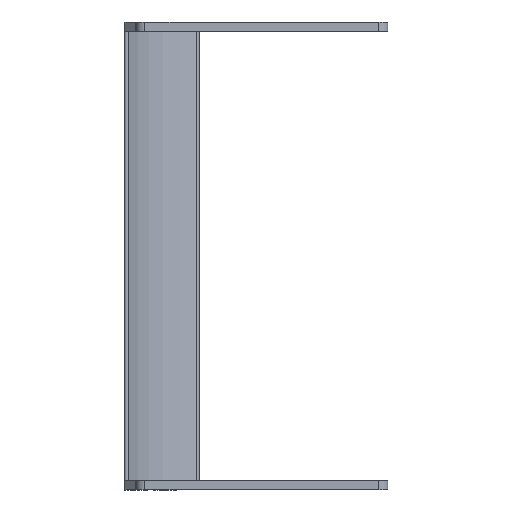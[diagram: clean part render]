
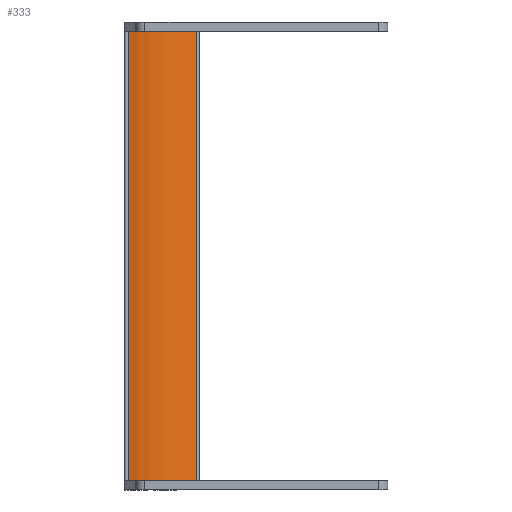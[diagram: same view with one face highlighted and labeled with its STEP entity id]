
A CAD part, left-side view. The second image highlights one B-rep face of the part: STEP entity #333.
In plain terms, the highlighted cylindrical face has radius 40.64 mm (diameter 81.28 mm), a partial arc.
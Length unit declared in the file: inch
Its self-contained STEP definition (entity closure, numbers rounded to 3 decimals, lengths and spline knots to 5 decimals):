
#40=CARTESIAN_POINT('',(-1.52,1.63,-3.118));
#41=DIRECTION('',(0.,0.,-1.));
#42=DIRECTION('',(0.914,-0.405,0.));
#43=AXIS2_PLACEMENT_3D('',#40,#41,#42);
#87=CARTESIAN_POINT('',(-1.52,1.63,3.118));
#88=DIRECTION('',(0.,0.,-1.));
#89=DIRECTION('',(0.914,-0.405,0.));
#90=AXIS2_PLACEMENT_3D('',#87,#88,#89);
#118=DIRECTION('',(0.,0.,1.));
#119=VECTOR('',#118,6.236);
#120=CARTESIAN_POINT('',(-1.00032,0.11675,-3.118));
#121=LINE('',#120,#119);
#122=DIRECTION('',(0.,0.,1.));
#123=VECTOR('',#122,6.236);
#124=CARTESIAN_POINT('',(-0.05742,0.98126,-3.118));
#125=LINE('',#124,#123);
#154=CARTESIAN_POINT('',(-0.05742,0.98126,-3.118));
#155=VERTEX_POINT('',#154);
#156=CARTESIAN_POINT('',(-1.00032,0.11675,-3.118));
#157=VERTEX_POINT('',#156);
#174=CARTESIAN_POINT('',(-0.05742,0.98126,3.118));
#175=VERTEX_POINT('',#174);
#176=CARTESIAN_POINT('',(-1.00032,0.11675,3.118));
#177=VERTEX_POINT('',#176);
#321=CARTESIAN_POINT('',(-1.52,1.63,-3.118));
#322=DIRECTION('',(0.,0.,1.));
#323=DIRECTION('',(1.,0.,0.));
#324=AXIS2_PLACEMENT_3D('',#321,#322,#323);
#325=CYLINDRICAL_SURFACE('',#324,1.6);
#326=ORIENTED_EDGE('',*,*,#191,.F.);
#328=ORIENTED_EDGE('',*,*,#327,.T.);
#329=ORIENTED_EDGE('',*,*,#247,.T.);
#330=ORIENTED_EDGE('',*,*,#314,.F.);
#331=EDGE_LOOP('',(#326,#328,#329,#330));
#332=FACE_OUTER_BOUND('',#331,.F.);
#44=CIRCLE('',#43,1.6);
#91=CIRCLE('',#90,1.6);
#191=EDGE_CURVE('',#155,#157,#44,.T.);
#247=EDGE_CURVE('',#175,#177,#91,.T.);
#314=EDGE_CURVE('',#157,#177,#121,.T.);
#327=EDGE_CURVE('',#155,#175,#125,.T.);
#333=ADVANCED_FACE('',(#332),#325,.F.);
